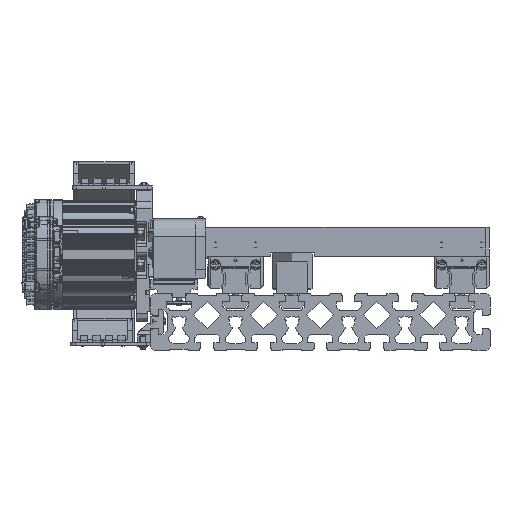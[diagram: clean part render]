
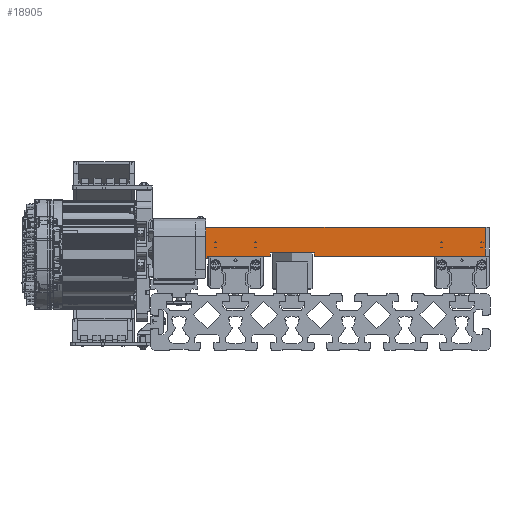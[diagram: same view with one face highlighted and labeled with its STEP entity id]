
A CAD part, front view. The second image highlights one B-rep face of the part: STEP entity #18905.
In plain terms, the highlighted planar face has unit normal (0, -1, 0) as drawn and (1, 0, 0) by its records, which use the part's own axes.
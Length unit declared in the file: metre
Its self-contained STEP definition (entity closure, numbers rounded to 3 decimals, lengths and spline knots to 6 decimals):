
#18905 = ADVANCED_FACE( '', ( #39916 ), #39917, .F. );
#39916 = FACE_OUTER_BOUND( '', #103356, .T. );
#39917 = PLANE( '', #103357 );
#103356 = EDGE_LOOP( '', ( #178268, #178269, #178270, #178271, #178272, #178273, #178274, #178275, #178276, #178277 ) );
#103357 = AXIS2_PLACEMENT_3D( '', #178278, #178279, #178280 );
#178268 = ORIENTED_EDGE( '', *, *, #223028, .F. );
#178269 = ORIENTED_EDGE( '', *, *, #217549, .F. );
#178270 = ORIENTED_EDGE( '', *, *, #223684, .F. );
#178271 = ORIENTED_EDGE( '', *, *, #223685, .T. );
#178272 = ORIENTED_EDGE( '', *, *, #217868, .F. );
#178273 = ORIENTED_EDGE( '', *, *, #223686, .T. );
#178274 = ORIENTED_EDGE( '', *, *, #215268, .T. );
#178275 = ORIENTED_EDGE( '', *, *, #212873, .F. );
#178276 = ORIENTED_EDGE( '', *, *, #223687, .F. );
#178277 = ORIENTED_EDGE( '', *, *, #223688, .F. );
#178278 = CARTESIAN_POINT( '', ( 0.08, -0.01905, 0.11667 ) );
#178279 = DIRECTION( '', ( -1., 0., 0. ) );
#178280 = DIRECTION( '', ( 0., 0., -1. ) );
#212873 = EDGE_CURVE( '', #243289, #243284, #243291, .T. );
#215268 = EDGE_CURVE( '', #247102, #243284, #247103, .T. );
#217549 = EDGE_CURVE( '', #250545, #250543, #250547, .T. );
#217868 = EDGE_CURVE( '', #251014, #251011, #251016, .T. );
#223028 = EDGE_CURVE( '', #250543, #258326, #258327, .T. );
#223684 = EDGE_CURVE( '', #259196, #250545, #259197, .T. );
#223685 = EDGE_CURVE( '', #259196, #251011, #259198, .T. );
#223686 = EDGE_CURVE( '', #251014, #247102, #259199, .T. );
#223687 = EDGE_CURVE( '', #259200, #243289, #259201, .T. );
#223688 = EDGE_CURVE( '', #258326, #259200, #259202, .T. );
#243284 = VERTEX_POINT( '', #297882 );
#243289 = VERTEX_POINT( '', #297889 );
#243291 = LINE( '', #297892, #297893 );
#247102 = VERTEX_POINT( '', #308400 );
#247103 = LINE( '', #308401, #308402 );
#250543 = VERTEX_POINT( '', #317132 );
#250545 = VERTEX_POINT( '', #317135 );
#250547 = LINE( '', #317138, #317139 );
#251011 = VERTEX_POINT( '', #318452 );
#251014 = VERTEX_POINT( '', #318456 );
#251016 = LINE( '', #318458, #318459 );
#258326 = VERTEX_POINT( '', #338112 );
#258327 = LINE( '', #338113, #338114 );
#259196 = VERTEX_POINT( '', #339880 );
#259197 = LINE( '', #339881, #339882 );
#259198 = LINE( '', #339883, #339884 );
#259199 = LINE( '', #339885, #339886 );
#259200 = VERTEX_POINT( '', #339887 );
#259201 = LINE( '', #339888, #339889 );
#259202 = LINE( '', #339890, #339891 );
#297882 = CARTESIAN_POINT( '', ( 0.08, 0.01905, 0.10905 ) );
#297889 = CARTESIAN_POINT( '', ( 0.08, -0.005842, 0.10905 ) );
#297892 = CARTESIAN_POINT( '', ( 0.08, 0.01905, 0.10905 ) );
#297893 = VECTOR( '', #368710, 1. );
#308400 = CARTESIAN_POINT( '', ( 0.08, 0.01905, -0.113495 ) );
#308401 = CARTESIAN_POINT( '', ( 0.08, 0.01905, 0.11667 ) );
#308402 = VECTOR( '', #371677, 1. );
#317132 = CARTESIAN_POINT( '', ( 0.08, -0.00381, 0.057856 ) );
#317135 = CARTESIAN_POINT( '', ( 0.08, -0.00127, 0.057856 ) );
#317138 = CARTESIAN_POINT( '', ( 0.08, -0.00127, 0.057856 ) );
#317139 = VECTOR( '', #374478, 1. );
#318452 = CARTESIAN_POINT( '', ( 0.08, -0.00381, 0.022804 ) );
#318456 = CARTESIAN_POINT( '', ( 0.08, -0.00381, -0.113495 ) );
#318458 = CARTESIAN_POINT( '', ( 0.08, -0.00381, -0.11667 ) );
#318459 = VECTOR( '', #374815, 1. );
#338112 = CARTESIAN_POINT( '', ( 0.08, -0.00381, 0.10733 ) );
#338113 = CARTESIAN_POINT( '', ( 0.08, -0.00381, -0.11667 ) );
#338114 = VECTOR( '', #381331, 1. );
#339880 = CARTESIAN_POINT( '', ( 0.08, -0.00127, 0.022804 ) );
#339881 = CARTESIAN_POINT( '', ( 0.08, -0.00127, 0.022804 ) );
#339882 = VECTOR( '', #382125, 1. );
#339883 = CARTESIAN_POINT( '', ( 0.08, -0.00127, 0.022804 ) );
#339884 = VECTOR( '', #382126, 1. );
#339885 = CARTESIAN_POINT( '', ( 0.08, -0.01905, -0.113495 ) );
#339886 = VECTOR( '', #382127, 1. );
#339887 = CARTESIAN_POINT( '', ( 0.08, -0.005842, 0.10733 ) );
#339888 = CARTESIAN_POINT( '', ( 0.08, -0.005842, -0.11667 ) );
#339889 = VECTOR( '', #382128, 1. );
#339890 = CARTESIAN_POINT( '', ( 0.08, -0.01905, 0.10733 ) );
#339891 = VECTOR( '', #382129, 1. );
#368710 = DIRECTION( '', ( 0., 1., 0. ) );
#371677 = DIRECTION( '', ( 0., 0., 1. ) );
#374478 = DIRECTION( '', ( 0., -1., 0. ) );
#374815 = DIRECTION( '', ( 0., 0., 1. ) );
#381331 = DIRECTION( '', ( 0., 0., 1. ) );
#382125 = DIRECTION( '', ( 0., 0., 1. ) );
#382126 = DIRECTION( '', ( 0., -1., 0. ) );
#382127 = DIRECTION( '', ( 0., 1., 0. ) );
#382128 = DIRECTION( '', ( 0., 0., 1. ) );
#382129 = DIRECTION( '', ( 0., -1., 0. ) );
